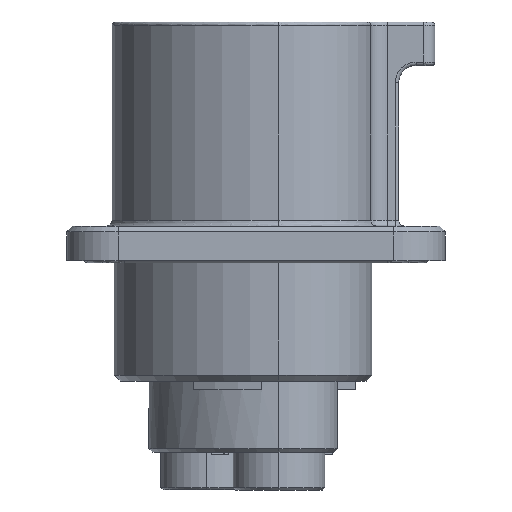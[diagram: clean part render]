
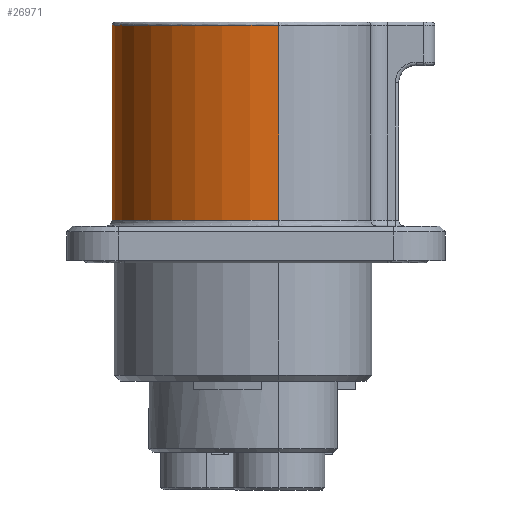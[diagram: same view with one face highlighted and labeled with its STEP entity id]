
A CAD part, left-side view. The second image highlights one B-rep face of the part: STEP entity #26971.
In plain terms, the highlighted cylindrical face has radius 14.55 mm (diameter 29.1 mm), a partial arc.
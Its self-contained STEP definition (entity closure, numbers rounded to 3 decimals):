
#1111 = LINE ( 'NONE', #9774, #31210 ) ;
#1538 = CARTESIAN_POINT ( 'NONE',  ( -22.352, -0.61, 35. ) ) ;
#1607 = CARTESIAN_POINT ( 'NONE',  ( -7.802, -0.61, 35. ) ) ;
#1698 = CARTESIAN_POINT ( 'NONE',  ( -7.802, -0.61, -2.499 ) ) ;
#2014 = CARTESIAN_POINT ( 'NONE',  ( 6.748, -0.61, 35. ) ) ;
#2768 = AXIS2_PLACEMENT_3D ( 'NONE', #16641, #36789, #19601 ) ;
#3467 = AXIS2_PLACEMENT_3D ( 'NONE', #1607, #22155, #4556 ) ;
#3964 = DIRECTION ( 'NONE',  ( 0., 0., -1. ) ) ;
#4556 = DIRECTION ( 'NONE',  ( 1., 0., 0. ) ) ;
#6434 = EDGE_CURVE ( 'NONE', #35838, #28654, #37280, .T. ) ;
#6729 = ORIENTED_EDGE ( 'NONE', *, *, #27705, .T. ) ;
#7211 = CARTESIAN_POINT ( 'NONE',  ( -22.352, -0.61, 52. ) ) ;
#7466 = VERTEX_POINT ( 'NONE', #1538 ) ;
#7753 = DIRECTION ( 'NONE',  ( 1., 0., 0. ) ) ;
#9774 = CARTESIAN_POINT ( 'NONE',  ( 6.748, -0.61, -2.499 ) ) ;
#12128 = CARTESIAN_POINT ( 'NONE',  ( -22.352, -0.61, -2.499 ) ) ;
#12494 = LINE ( 'NONE', #12128, #20293 ) ;
#14007 = EDGE_CURVE ( 'NONE', #28654, #36446, #1111, .T. ) ;
#14636 = CYLINDRICAL_SURFACE ( 'NONE', #15036, 14.55 ) ;
#15036 = AXIS2_PLACEMENT_3D ( 'NONE', #1698, #33757, #7753 ) ;
#16009 = EDGE_LOOP ( 'NONE', ( #28839, #33341, #18777, #6729 ) ) ;
#16641 = CARTESIAN_POINT ( 'NONE',  ( -7.802, -0.61, 52. ) ) ;
#18777 = ORIENTED_EDGE ( 'NONE', *, *, #14007, .T. ) ;
#19601 = DIRECTION ( 'NONE',  ( 1., 0., 0. ) ) ;
#20293 = VECTOR ( 'NONE', #32150, 1000. ) ;
#20484 = CIRCLE ( 'NONE', #3467, 14.55 ) ;
#21457 = CARTESIAN_POINT ( 'NONE',  ( 6.748, -0.61, 52. ) ) ;
#22155 = DIRECTION ( 'NONE',  ( 0., 0., 1. ) ) ;
#25120 = FACE_OUTER_BOUND ( 'NONE', #16009, .T. ) ;
#25553 = EDGE_CURVE ( 'NONE', #7466, #35838, #12494, .T. ) ;
#26971 = ADVANCED_FACE ( 'NONE', ( #25120 ), #14636, .T. ) ;
#27705 = EDGE_CURVE ( 'NONE', #36446, #7466, #20484, .T. ) ;
#28654 = VERTEX_POINT ( 'NONE', #21457 ) ;
#28839 = ORIENTED_EDGE ( 'NONE', *, *, #25553, .T. ) ;
#31210 = VECTOR ( 'NONE', #3964, 1000. ) ;
#32150 = DIRECTION ( 'NONE',  ( 0., 0., 1. ) ) ;
#33341 = ORIENTED_EDGE ( 'NONE', *, *, #6434, .T. ) ;
#33757 = DIRECTION ( 'NONE',  ( 0., 0., 1. ) ) ;
#35838 = VERTEX_POINT ( 'NONE', #7211 ) ;
#36446 = VERTEX_POINT ( 'NONE', #2014 ) ;
#36789 = DIRECTION ( 'NONE',  ( 0., 0., -1. ) ) ;
#37280 = CIRCLE ( 'NONE', #2768, 14.55 ) ;
